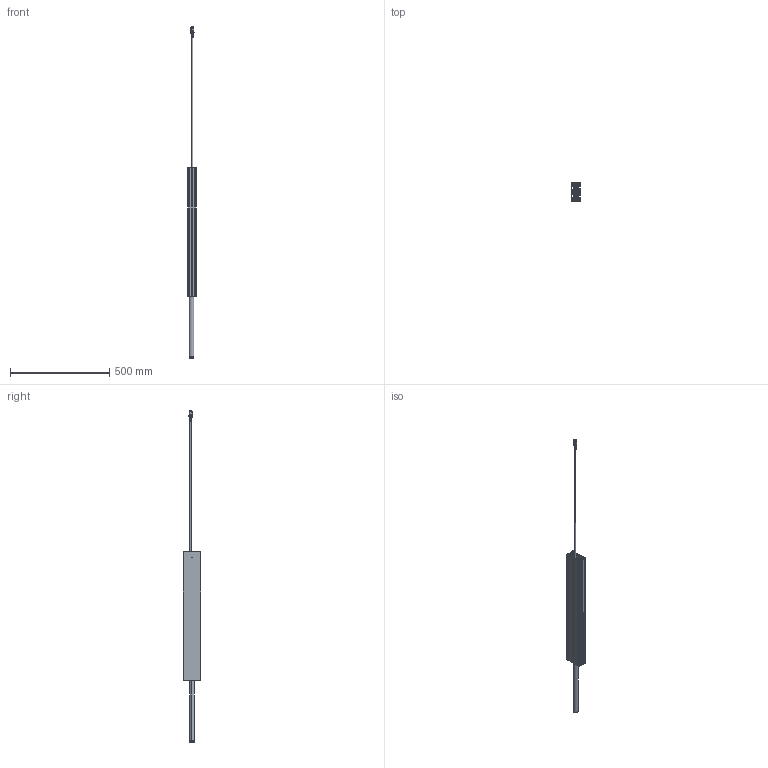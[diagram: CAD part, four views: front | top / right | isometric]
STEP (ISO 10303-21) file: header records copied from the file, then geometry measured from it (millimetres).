
FILE_DESCRIPTION (( 'STEP AP214' ), '1' );
FILE_NAME ('004 10274_ZB Actuator SMS-B 45x90_Hub300_ausgefahren.STEP', '2018-09-03T09:08:21', ( '' ), ( '' ), 'SwSTEP 2.0', 'SolidWorks 2017', '' );
FILE_SCHEMA (( 'AUTOMOTIVE_DESIGN' ));
Length unit declared in the file: millimetre
Products named in the file (1): 004 10274_ZB Actuator SMS-B 45x90_Hub300_ausgefahren
Bounding box: 45 x 90 x 1675.6 mm (x, y, z)
Surface area: 802957.3 mm2 (no closed solid volume)
Topology: 0 solids, 6 shells, 3001 faces, 8204 edges, 5057 vertices
Faces by surface type: plane 971, bspline 904, cylinder 716, cone 289, torus 81, sphere 40
Entity records: 163809 total; most frequent: CARTESIAN_POINT 86561, ORIENTED_EDGE 15944, DIRECTION 11325, EDGE_CURVE 7975, VERTEX_POINT 5053, AXIS2_PLACEMENT_3D 4224, EDGE_LOOP 3121, ADVANCED_FACE 3001
